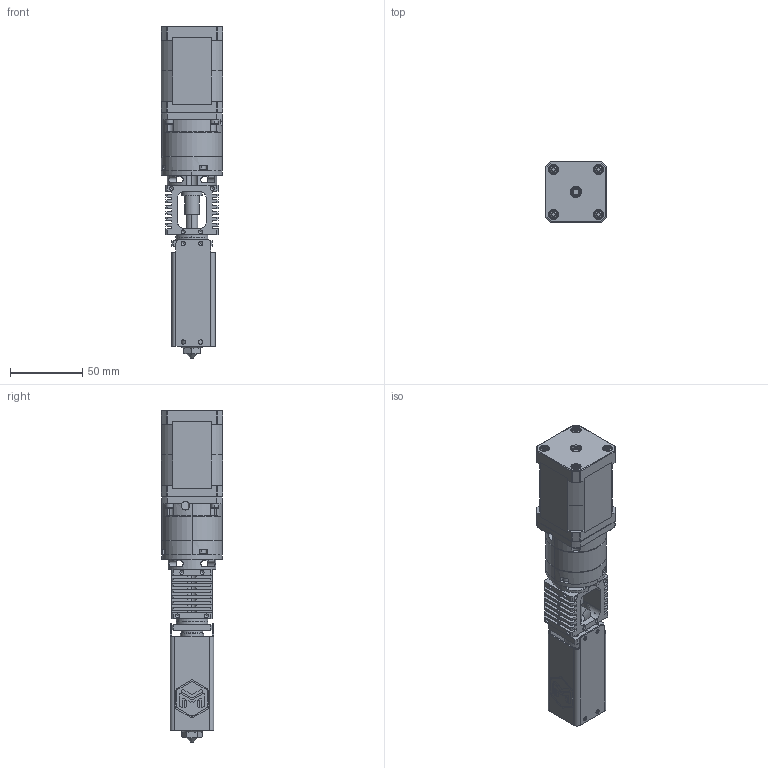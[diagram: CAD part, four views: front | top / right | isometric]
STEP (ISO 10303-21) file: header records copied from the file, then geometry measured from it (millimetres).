
FILE_DESCRIPTION(/* description */ (''),/* implementation_level */ '2;1');
FILE_NAME(/* name */ 'V5 MAX CAD',/* time_stamp */ '2025-09-11T11:53:16+02:00',/* author */ (''),/* organization */ (''),/* preprocessor_version */ 'ST-DEVELOPER v19.2',/* originating_system */ 'Rhino 8.22',/* authorisation */ '');
FILE_SCHEMA (('CONFIG_CONTROL_DESIGN'));
Length unit declared in the file: millimetre
Products named in the file (1): Document
Bounding box: 42.41 x 42.32 x 229 mm (x, y, z)
Volume: 203134.3 mm3; surface area: 61335.7 mm2
Topology: 2 solids, 2 shells, 1077 faces, 2837 edges, 1784 vertices
Faces by surface type: plane 529, cylinder 405, bspline 143
Entity records: 35176 total; most frequent: CARTESIAN_POINT 11908, ORIENTED_EDGE 5562, DIRECTION 2948, EDGE_CURVE 2781, AXIS2_PLACEMENT_3D 1941, VERTEX_POINT 1784, B_SPLINE_CURVE_WITH_KNOTS 1697, EDGE_LOOP 1223
